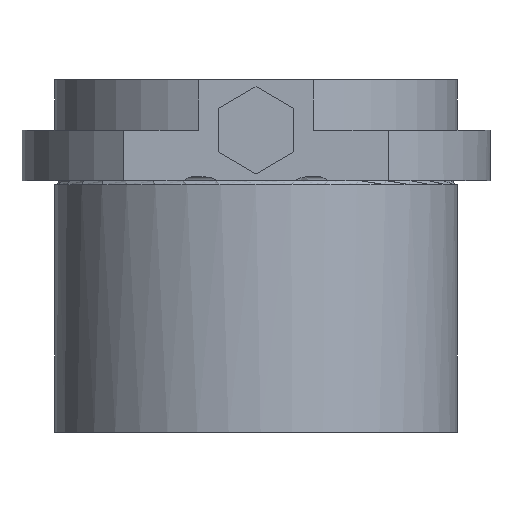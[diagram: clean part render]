
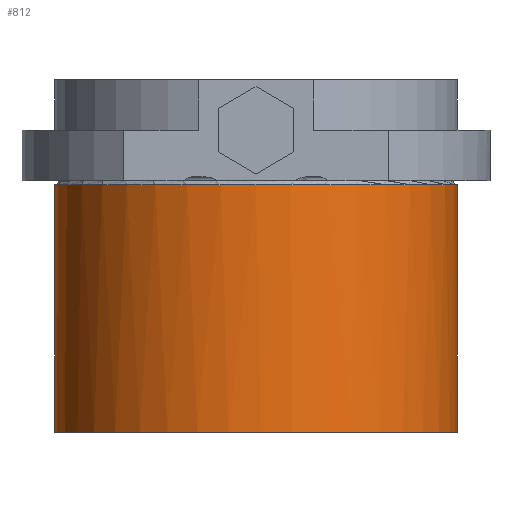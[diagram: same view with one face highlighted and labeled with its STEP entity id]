
A CAD part, front view. The second image highlights one B-rep face of the part: STEP entity #812.
In plain terms, the highlighted cylindrical face has radius 24 mm (diameter 48 mm), a partial arc.
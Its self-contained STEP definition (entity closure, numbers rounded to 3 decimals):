
#447=CARTESIAN_POINT('Control Point',(-24.,0.,-30.)) ;
#448=CARTESIAN_POINT('Control Point',(-24.,-2.4,-30.)) ;
#449=CARTESIAN_POINT('Control Point',(-23.7,-4.8,-30.)) ;
#450=CARTESIAN_POINT('Control Point',(-23.1,-7.15,-30.)) ;
#451=CARTESIAN_POINT('Control Point',(-21.325,-11.65,-30.)) ;
#452=CARTESIAN_POINT('Control Point',(-18.497,-15.575,-30.)) ;
#453=CARTESIAN_POINT('Control Point',(-16.844,-17.349,-30.)) ;
#454=CARTESIAN_POINT('Control Point',(-13.129,-20.448,-30.)) ;
#455=CARTESIAN_POINT('Control Point',(-8.766,-22.536,-30.)) ;
#456=CARTESIAN_POINT('Control Point',(-6.464,-23.301,-30.)) ;
#457=CARTESIAN_POINT('Control Point',(-1.719,-24.239,-30.)) ;
#458=CARTESIAN_POINT('Control Point',(3.111,-23.98,-30.)) ;
#459=CARTESIAN_POINT('Control Point',(5.498,-23.548,-30.)) ;
#460=CARTESIAN_POINT('Control Point',(10.112,-22.096,-30.)) ;
#461=CARTESIAN_POINT('Control Point',(14.227,-19.553,-30.)) ;
#462=CARTESIAN_POINT('Control Point',(16.114,-18.029,-30.)) ;
#463=CARTESIAN_POINT('Control Point',(19.468,-14.543,-30.)) ;
#464=CARTESIAN_POINT('Control Point',(21.86,-10.338,-30.)) ;
#465=CARTESIAN_POINT('Control Point',(22.785,-8.096,-30.)) ;
#466=CARTESIAN_POINT('Control Point',(23.601,-5.102,-30.)) ;
#467=CARTESIAN_POINT('Control Point',(23.928,-2.038,-30.)) ;
#468=CARTESIAN_POINT('Control Point',(23.976,-1.359,-30.)) ;
#469=CARTESIAN_POINT('Control Point',(24.,-0.679,-30.)) ;
#470=CARTESIAN_POINT('Control Point',(24.,0.,-30.)) ;
#471=CARTESIAN_POINT('Vertex',(-24.,0.,-30.)) ;
#473=CARTESIAN_POINT('Vertex',(24.,0.,-30.)) ;
#782=CARTESIAN_POINT('Axis2P3D Location',(0.,0.,12.)) ;
#787=CARTESIAN_POINT('Line Origine',(24.,0.,12.)) ;
#791=CARTESIAN_POINT('Vertex',(24.,0.,-0.5)) ;
#794=CARTESIAN_POINT('Axis2P3D Location',(0.,0.,-0.5)) ;
#798=CARTESIAN_POINT('Vertex',(-24.,0.,-0.5)) ;
#801=CARTESIAN_POINT('Line Origine',(-24.,0.,12.)) ;
#783=DIRECTION('Axis2P3D Direction',(0.,0.,-1.)) ;
#784=DIRECTION('Axis2P3D XDirection',(1.,0.,0.)) ;
#788=DIRECTION('Vector Direction',(0.,0.,-1.)) ;
#795=DIRECTION('Axis2P3D Direction',(0.,0.,-1.)) ;
#802=DIRECTION('Vector Direction',(0.,0.,-1.)) ;
#785=AXIS2_PLACEMENT_3D('Cylinder Axis2P3D',#782,#783,#784) ;
#796=AXIS2_PLACEMENT_3D('Circle Axis2P3D',#794,#795,$) ;
#807=ORIENTED_EDGE('',*,*,#793,.T.) ;
#808=ORIENTED_EDGE('',*,*,#800,.F.) ;
#809=ORIENTED_EDGE('',*,*,#805,.T.) ;
#810=ORIENTED_EDGE('',*,*,#475,.T.) ;
#789=VECTOR('Line Direction',#788,1.) ;
#803=VECTOR('Line Direction',#802,1.) ;
#812=ADVANCED_FACE('740-32',(#811),#786,.T.) ;
#446=B_SPLINE_CURVE_WITH_KNOTS('',5,(#447,#448,#449,#450,#451,#452,#453,#454,#455,#456,#457,#458,#459,#460,#461,#462,#463,#464,#465,#466,#467,#468,#469,#470),.UNSPECIFIED.,.F.,.U.,(6,3,3,3,3,3,3,6),(0.,16.97,33.941,50.911,67.881,84.852,101.822,106.626),.UNSPECIFIED.) ;
#797=CIRCLE('generated circle',#796,24.) ;
#786=CYLINDRICAL_SURFACE('generated cylinder',#785,24.) ;
#475=EDGE_CURVE('',#472,#474,#446,.T.) ;
#793=EDGE_CURVE('',#474,#792,#790,.F.) ;
#800=EDGE_CURVE('',#799,#792,#797,.F.) ;
#805=EDGE_CURVE('',#799,#472,#804,.T.) ;
#806=EDGE_LOOP('',(#807,#808,#809,#810)) ;
#811=FACE_OUTER_BOUND('',#806,.T.) ;
#790=LINE('Line',#787,#789) ;
#804=LINE('Line',#801,#803) ;
#472=VERTEX_POINT('',#471) ;
#474=VERTEX_POINT('',#473) ;
#792=VERTEX_POINT('',#791) ;
#799=VERTEX_POINT('',#798) ;
